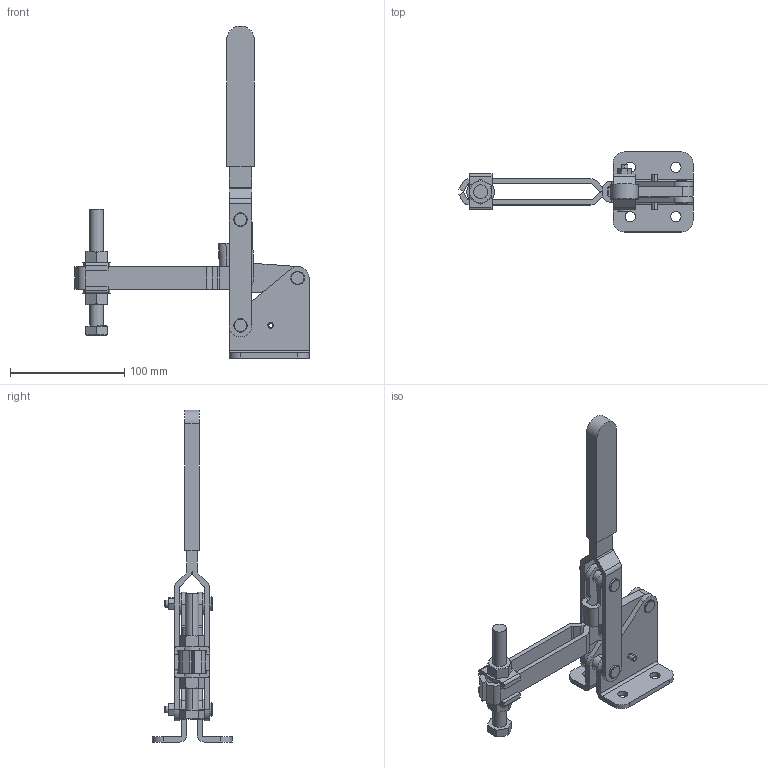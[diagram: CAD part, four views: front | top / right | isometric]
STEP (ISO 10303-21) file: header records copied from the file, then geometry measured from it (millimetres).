
FILE_DESCRIPTION(('CATIA V5 STEP Exchange'),'2;1');
FILE_NAME('D:\Model\toggle\toggle_standard\KJF_045_11F.stp','2005-06-24T05:15:08+00:00',('none'),('none'),'CATIA Version 5 Release 11 (IN-9)','CATIA V5 STEP AP203',' none');
FILE_SCHEMA(('CONFIG_CONTROL_DESIGN'));
Length unit declared in the file: millimetre
Products named in the file (1): Part1
Bounding box: 204.88 x 70 x 290.5 mm (x, y, z)
Volume: 199640.8 mm3; surface area: 98827.9 mm2
Topology: 24 solids, 24 shells, 386 faces, 948 edges, 622 vertices
Faces by surface type: cylinder 172, plane 168, cone 46
Entity records: 11122 total; most frequent: CARTESIAN_POINT 2435, ORIENTED_EDGE 1888, DIRECTION 1438, EDGE_CURVE 944, AXIS2_PLACEMENT_3D 685, VERTEX_POINT 622, EDGE_LOOP 466, VECTOR 464
